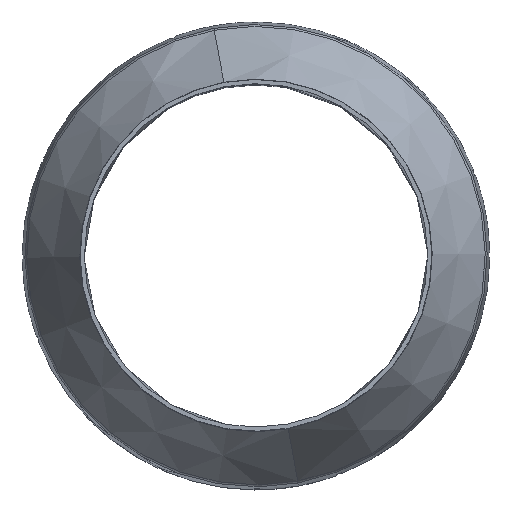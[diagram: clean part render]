
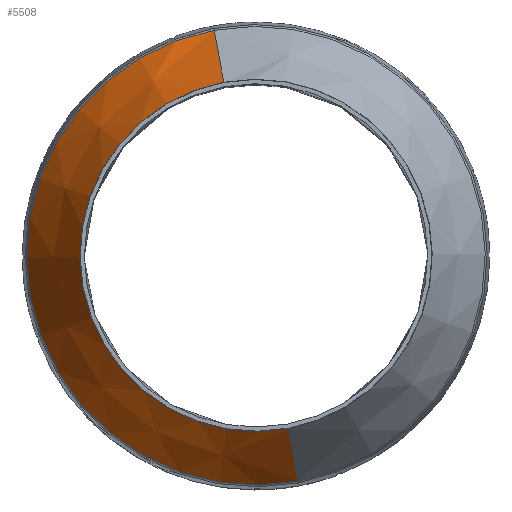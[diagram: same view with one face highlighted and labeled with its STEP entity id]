
A CAD part, top view. The second image highlights one B-rep face of the part: STEP entity #5508.
In plain terms, the highlighted conical face has half-angle 29.802 degrees and reference radius 81.5 mm.
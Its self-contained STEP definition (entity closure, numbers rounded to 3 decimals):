
#68 = VERTEX_POINT ( 'NONE', #8860 ) ;
#143 = VERTEX_POINT ( 'NONE', #17052 ) ;
#321 = DIRECTION ( 'NONE',  ( 0., 0., -1. ) ) ;
#411 = AXIS2_PLACEMENT_3D ( 'NONE', #8643, #321, #9932 ) ;
#1226 = CONICAL_SURFACE ( 'NONE', #16290, 81.5, 0.52 ) ;
#1656 = FACE_OUTER_BOUND ( 'NONE', #4014, .T. ) ;
#2758 = VECTOR ( 'NONE', #9762, 1000. ) ;
#2775 = CIRCLE ( 'NONE', #411, 62.157 ) ;
#2938 = LINE ( 'NONE', #16312, #2758 ) ;
#3229 = VECTOR ( 'NONE', #5783, 1000. ) ;
#3404 = VERTEX_POINT ( 'NONE', #16345 ) ;
#3449 = LINE ( 'NONE', #7154, #3229 ) ;
#4014 = EDGE_LOOP ( 'NONE', ( #11579, #11318, #11441, #11183 ) ) ;
#4318 = EDGE_CURVE ( 'NONE', #143, #15828, #3449, .T. ) ;
#4348 = EDGE_CURVE ( 'NONE', #68, #3404, #2938, .T. ) ;
#4372 = EDGE_CURVE ( 'NONE', #143, #68, #2775, .T. ) ;
#4639 = DIRECTION ( 'NONE',  ( -0.182, 0.983, 0. ) ) ;
#5508 = ADVANCED_FACE ( 'NONE', ( #1656 ), #1226, .T. ) ;
#5783 = DIRECTION ( 'NONE',  ( 0.091, -0.489, -0.868 ) ) ;
#7154 = CARTESIAN_POINT ( 'NONE',  ( 14.852, -80.135, -42.243 ) ) ;
#8024 = DIRECTION ( 'NONE',  ( 0., 0., 1. ) ) ;
#8643 = CARTESIAN_POINT ( 'NONE',  ( 0., 0., -8.471 ) ) ;
#8860 = CARTESIAN_POINT ( 'NONE',  ( -11.327, 61.116, -8.471 ) ) ;
#9762 = DIRECTION ( 'NONE',  ( -0.091, 0.489, -0.868 ) ) ;
#9932 = DIRECTION ( 'NONE',  ( -0.182, 0.983, 0. ) ) ;
#11183 = ORIENTED_EDGE ( 'NONE', *, *, #15845, .T. ) ;
#11318 = ORIENTED_EDGE ( 'NONE', *, *, #4372, .T. ) ;
#11441 = ORIENTED_EDGE ( 'NONE', *, *, #4348, .T. ) ;
#11579 = ORIENTED_EDGE ( 'NONE', *, *, #4318, .F. ) ;
#11940 = AXIS2_PLACEMENT_3D ( 'NONE', #15754, #8024, #17037 ) ;
#12501 = DIRECTION ( 'NONE',  ( 0., 0., -1. ) ) ;
#13095 = CARTESIAN_POINT ( 'NONE',  ( 14.734, -79.498, -41.111 ) ) ;
#13836 = CARTESIAN_POINT ( 'NONE',  ( 0., 0., -42.243 ) ) ;
#14451 = CIRCLE ( 'NONE', #11940, 80.852 ) ;
#15754 = CARTESIAN_POINT ( 'NONE',  ( 0., 0., -41.111 ) ) ;
#15828 = VERTEX_POINT ( 'NONE', #13095 ) ;
#15845 = EDGE_CURVE ( 'NONE', #3404, #15828, #14451, .T. ) ;
#16290 = AXIS2_PLACEMENT_3D ( 'NONE', #13836, #12501, #4639 ) ;
#16312 = CARTESIAN_POINT ( 'NONE',  ( -14.852, 80.135, -42.243 ) ) ;
#16345 = CARTESIAN_POINT ( 'NONE',  ( -14.734, 79.498, -41.111 ) ) ;
#17037 = DIRECTION ( 'NONE',  ( 0.182, -0.983, 0. ) ) ;
#17052 = CARTESIAN_POINT ( 'NONE',  ( 11.327, -61.116, -8.471 ) ) ;
